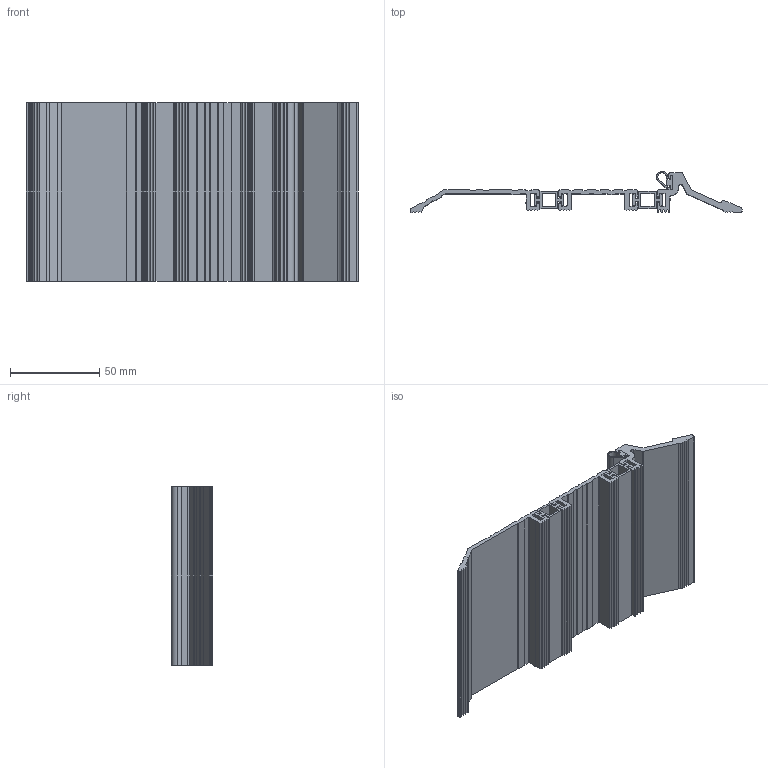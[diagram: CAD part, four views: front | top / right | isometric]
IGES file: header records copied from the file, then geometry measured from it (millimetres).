
Global section: file name: No Iges File Name specified; native system: Autodesk Inventor 2012; preprocessor: AutoDesk Inventor Iges Exporter R2012; author: anna.b; date: 20130718.140137; units: millimetre
Bounding box: 186.44 x 23.13 x 100 mm (x, y, z)
Volume: 81364.8 mm3; surface area: 81574.4 mm2
Topology: 6 solids, 6 shells, 340 faces, 984 edges, 656 vertices
Faces by surface type: plane 268, cylinder 40, revolution 32
